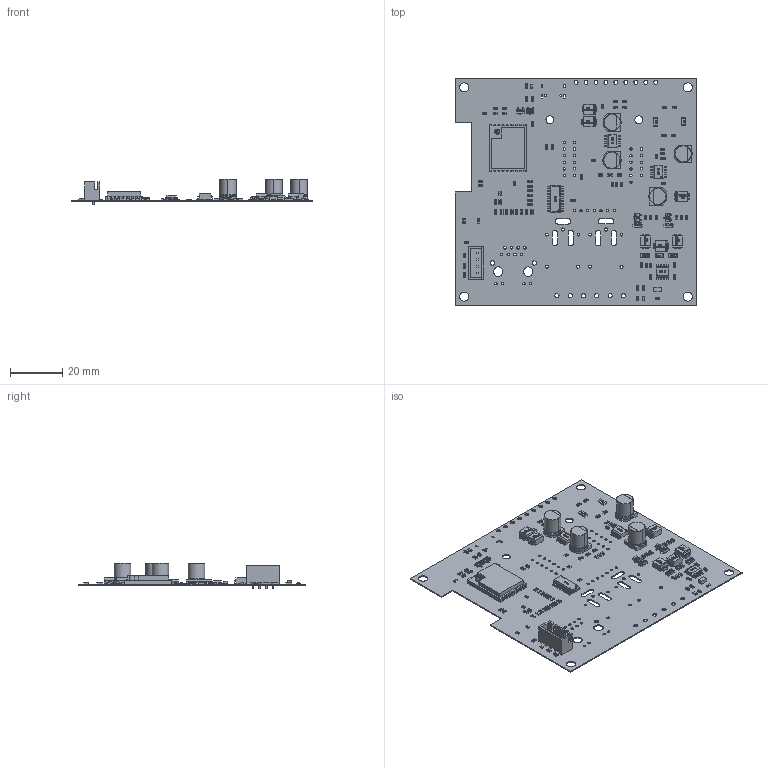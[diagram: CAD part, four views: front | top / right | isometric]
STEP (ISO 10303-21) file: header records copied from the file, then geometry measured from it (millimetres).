
FILE_DESCRIPTION(('Open CASCADE Model'),'2;1');
FILE_NAME('Open CASCADE Shape Model','2025-06-26T07:34:26',('Author'),( 'Open CASCADE'),'Open CASCADE STEP processor 6.8','Open CASCADE 6.8' ,'Unknown');
FILE_SCHEMA(('AUTOMOTIVE_DESIGN { 1 0 10303 214 1 1 1 1 }'));
Length unit declared in the file: millimetre
Products named in the file (135): PCB; Board; Open CASCADE STEP translator 6.8 1.1.1; C1; User_Library-0603_SMD_Capacitor; R1; User_Library-RES_1609-0603; C2; C60; R33; R34; P8; XH2_54-4P-AWP; R7; R6; R148; R147; R146; C53; C52; C51; C50; U11; 5726385104; U10; 5726382224; U9; 6116651344; Extruded; U8; 5726382464; U7; SOP16; LOGO?; U1; EP07S; TVS3; DO-214AA; TVS2; TVS1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
Assembly tree (222 placements, depth 4):
  PCB
    Board
      Open CASCADE STEP translator 6.8 1.1.1
    C1
      User_Library-0603_SMD_Capacitor
    R1
      User_Library-RES_1609-0603
    C2
      User_Library-0603_SMD_Capacitor
    C60
      User_Library-0603_SMD_Capacitor
    R33
      User_Library-RES_1609-0603
    R34
      User_Library-RES_1609-0603
    P8
      XH2_54-4P-AWP
    R7
      User_Library-RES_1609-0603
    R6
      User_Library-RES_1609-0603
    R148
      User_Library-RES_1609-0603
    R147
      User_Library-RES_1609-0603
    R146
      User_Library-RES_1609-0603
    C53
      User_Library-0603_SMD_Capacitor
    C52
      User_Library-0603_SMD_Capacitor
    C51
      User_Library-0603_SMD_Capacitor
    C50
      User_Library-0603_SMD_Capacitor
    U11
      5726385104
    U10
      5726382224
    U9
      6116651344
        Extruded
    U8
      5726382464
    U7
      SOP16
        LOGO?
        SOP16
    U1
      EP07S
    TVS3
      DO-214AA
    TVS2
      DO-214AA
    TVS1
      DO-214AA
    R92
      User_Library-RES_1609-0603
    R91
      User_Library-RES_1609-0603
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Bounding box: 92.5 x 87 x 9.91 mm (x, y, z)
Volume: 5642.1 mm3; surface area: 20207.8 mm2
Topology: 342 solids, 347 shells, 11915 faces, 30071 edges, 19386 vertices
Faces by surface type: plane 6374, bspline 4189, cylinder 1064, sphere 232, torus 32, cone 24
Full cylindrical faces by diameter (mm): 0.68 x2, 0.813 x4, 0.9 x30, 0.914 x4, 1 x12, 1.2 x6, 1.5 x9, 1.6 x6, 1.651 x2, 3 x2, 3.5 x4, 3.6 x2
Entity records: 138087 total; most frequent: CARTESIAN_POINT 64343, ORIENTED_EDGE 13764, DIRECTION 11022, EDGE_CURVE 6885, LINE 4808, VECTOR 4808, VERTEX_POINT 4458, AXIS2_PLACEMENT_3D 3107
